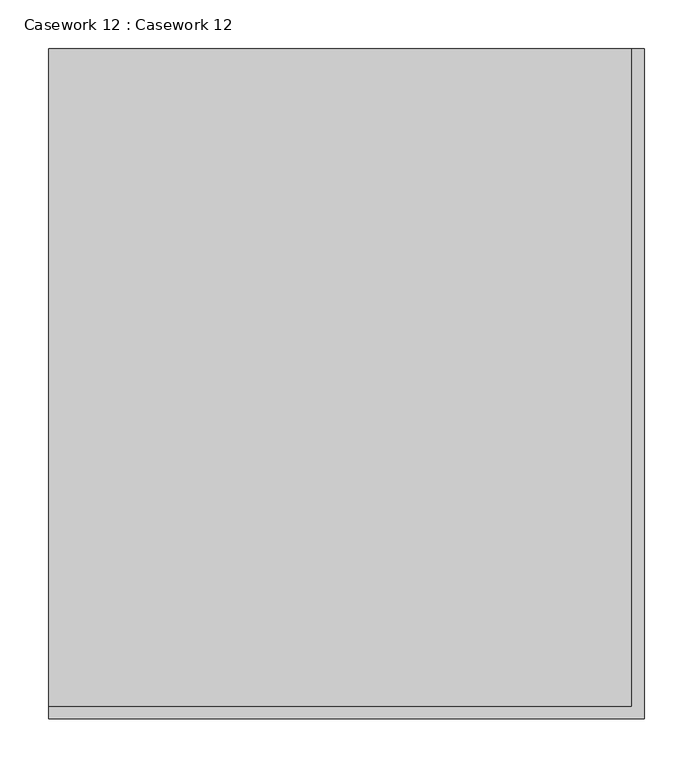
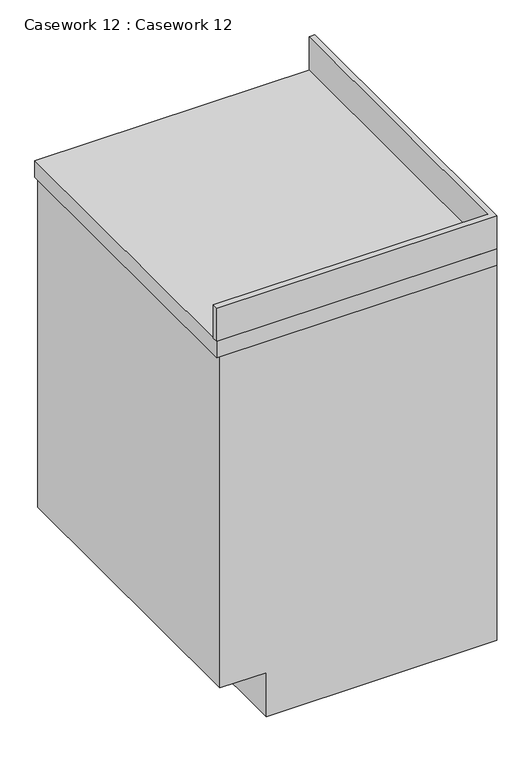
"""IFC4 building model written with IfcOpenShell, lengths in millimetres: furniture geometry, Casework 12 : Casework 12."""

from ifc_helpers import new_model, si_unit, frame, origin, place, context, project, spatial, polyline, outline, extrude, source, transform, mapped, element, save


def casework_12_casework_12_64e967a0(model_context):
    return source(origin(), model_context, "Body", "SweptSolid", [
        extrude(outline(polyline([(5410.2, 11607.6947939), (5410.2, 11620.3947939), (6007.1, 11620.3947939), (6007.1, 12293.4947939), (6019.8, 12293.4947939), (6019.8, 11607.6947939), (5410.2, 11607.6947939)])), frame((0.0, 0.0, 4152.9), z_axis=(0.0, 0.0, 1.0), x_axis=(1.0, 0.0, 0.0)), (0.0, 0.0, 1.0), 76.2),
        extrude(outline(polyline([(5410.2, 12293.4947939), (6019.8, 12293.4947939), (6019.8, 11607.6947939), (5410.2, 11607.6947939), (5410.2, 12293.4947939)])), frame((0.0, 0.0, 4114.8), z_axis=(0.0, 0.0, 1.0), x_axis=(1.0, 0.0, 0.0)), (0.0, 0.0, 1.0), 38.1),
        extrude(outline(polyline([(3251.2, 6019.8), (4114.8, 6019.8), (4114.8, 5416.55), (3352.8, 5416.55), (3352.8, 5518.15), (3251.2, 5518.15), (3251.2, 6019.8)])), frame((0.0, 11607.6947939, 0.0), z_axis=(0.0, 1.0, 0.0), x_axis=(0.0, 0.0, 1.0)), (0.0, 0.0, 1.0), 685.8),
    ])


if __name__ == "__main__":
    model = new_model("IFC4")
    model_context = context("Model", 3, world=origin())
    ifc_project = project(units=[si_unit("LENGTHUNIT", "METRE", prefix="MILLI")], contexts=[model_context])
    site = spatial("IfcSite", under=ifc_project)
    building = spatial("IfcBuilding", under=site)
    placement = place(None, origin())
    casework_12_casework_12_shape = casework_12_casework_12_64e967a0(model_context)
    element("IfcFurniture", 1, ObjectType="Casework 12 : Casework 12", at=placement, inside=building, context=model_context, shape_type="MappedRepresentation", body=[
        mapped(casework_12_casework_12_shape, transform((0.0, 0.0, 0.0), x_axis=(1.0, 0.0, 0.0), y_axis=(0.0, 1.0, 0.0), z_axis=(0.0, 0.0, 1.0))),
    ])
    save(model, "model.ifc")
